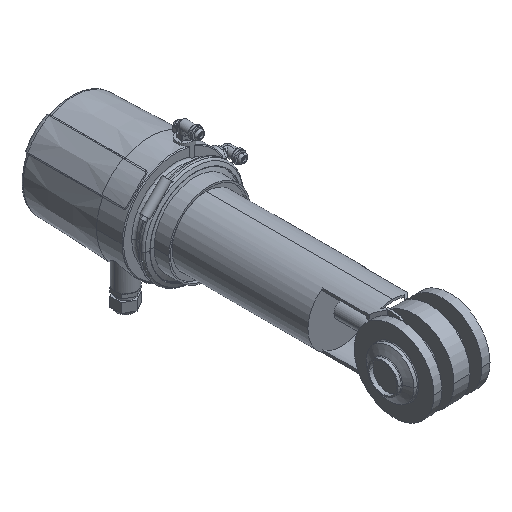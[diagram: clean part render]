
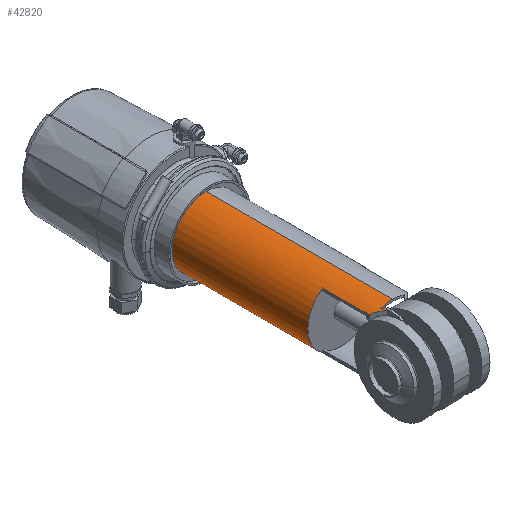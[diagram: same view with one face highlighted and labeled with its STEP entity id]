
A CAD part, isometric view. The second image highlights one B-rep face of the part: STEP entity #42820.
In plain terms, the highlighted cylindrical face has radius 42.5 mm (diameter 85 mm), a partial arc.
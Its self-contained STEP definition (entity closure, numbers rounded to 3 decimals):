
#22110=CARTESIAN_POINT('',(-207.543,30.638,
40.62));
#22120=VERTEX_POINT('',#22110);
#22150=CARTESIAN_POINT('',(-195.043,18.138,
0.));
#22160=DIRECTION('',(0.707,0.707,0.));
#22170=DIRECTION('',(-0.707,0.707,0.));
#22180=AXIS2_PLACEMENT_3D('',#22150,#22160,#22170);
#22190=ELLIPSE('',#22180,60.104,42.5);
#22200=CARTESIAN_POINT('',(-210.101,33.196,
39.743));
#22210=VERTEX_POINT('',#22200);
#22220=EDGE_CURVE('',#22210,#22120,#22190,.T.);
#23440=CARTESIAN_POINT('',(-207.543,293.457,
40.62));
#23450=DIRECTION('',(0.,-1.,0.));
#23460=VECTOR('',#23450,1.);
#23470=LINE('',#23440,#23460);
#23480=CARTESIAN_POINT('',(-207.543,27.102,
40.62));
#23490=VERTEX_POINT('',#23480);
#23520=EDGE_CURVE('',#22120,#23490,#23470,.T.);
#24110=CARTESIAN_POINT('',(-219.043,293.457,
-35.075));
#24120=DIRECTION('',(0.,-1.,0.));
#24130=VECTOR('',#24120,1.);
#24140=LINE('',#24110,#24130);
#24150=CARTESIAN_POINT('',(-219.043,96.596,
-35.075));
#24160=VERTEX_POINT('',#24150);
#24170=CARTESIAN_POINT('',(-219.043,38.602,
-35.075));
#24180=VERTEX_POINT('',#24170);
#24190=EDGE_CURVE('',#24160,#24180,#24140,.T.);
#24820=CARTESIAN_POINT('',(-205.691,25.25,
-41.145));
#24830=VERTEX_POINT('',#24820);
#24910=CARTESIAN_POINT('',(-205.043,24.602,
-41.307));
#24920=VERTEX_POINT('',#24910);
#24950=CARTESIAN_POINT('',(-195.043,14.602,
0.));
#24960=DIRECTION('',(-0.707,-0.707,0.));
#24970=DIRECTION('',(-0.707,0.707,0.));
#24980=AXIS2_PLACEMENT_3D('',#24950,#24960,#24970);
#24990=ELLIPSE('',#24980,60.104,42.5);
#25000=EDGE_CURVE('',#24830,#24920,#24990,.T.);
#25100=CARTESIAN_POINT('',(-195.043,-335.872,
0.));
#25110=DIRECTION('',(0.,-0.113,-0.994));
#25120=DIRECTION('',(0.,0.994,-0.113));
#25130=AXIS2_PLACEMENT_3D('',#25100,#25110,#25120);
#25140=ELLIPSE('',#25130,375.431,42.5);
#25150=CARTESIAN_POINT('',(-207.543,20.647,
-40.62));
#25160=VERTEX_POINT('',#25150);
#25170=EDGE_CURVE('',#25160,#24830,#25140,.T.);
#25870=CARTESIAN_POINT('',(-219.043,38.602,
35.075));
#25880=VERTEX_POINT('',#25870);
#26250=CARTESIAN_POINT('',(-219.043,96.596,
35.075));
#26260=VERTEX_POINT('',#26250);
#26290=CARTESIAN_POINT('',(-219.043,293.457,
35.075));
#26300=DIRECTION('',(0.,-1.,0.));
#26310=VECTOR('',#26300,1.);
#26320=LINE('',#26290,#26310);
#26330=EDGE_CURVE('',#26260,#25880,#26320,.T.);
#27280=CARTESIAN_POINT('',(-195.043,96.596,
0.));
#27290=DIRECTION('',(0.,-1.,0.));
#27300=DIRECTION('',(0.,0.,1.));
#27310=AXIS2_PLACEMENT_3D('',#27280,#27290,#27300);
#27320=CIRCLE('',#27310,42.5);
#27550=CARTESIAN_POINT('',(-195.043,33.196,
0.));
#27560=DIRECTION('',(0.,-1.,0.));
#27570=DIRECTION('',(0.,0.,1.));
#27580=AXIS2_PLACEMENT_3D('',#27550,#27560,#27570);
#27590=CIRCLE('',#27580,42.5);
#27600=CARTESIAN_POINT('',(-195.043,33.196,42.5));
#27610=VERTEX_POINT('',#27600);
#27640=CARTESIAN_POINT('',(-195.043,96.596,42.5));
#27650=DIRECTION('',(0.,-1.,0.));
#27660=VECTOR('',#27650,1.);
#27670=LINE('',#27640,#27660);
#27680=CARTESIAN_POINT('',(-195.043,266.596,42.5));
#27690=VERTEX_POINT('',#27680);
#27700=EDGE_CURVE('',#27690,#27610,#27670,.T.);
#27720=CARTESIAN_POINT('',(-195.043,266.596,
0.));
#27730=DIRECTION('',(0.,-1.,0.));
#27740=DIRECTION('',(0.,0.,-1.));
#27750=AXIS2_PLACEMENT_3D('',#27720,#27730,#27740);
#27760=CIRCLE('',#27750,42.5);
#27770=CARTESIAN_POINT('',(-195.043,266.596,-42.5));
#27780=VERTEX_POINT('',#27770);
#27810=CARTESIAN_POINT('',(-195.043,96.596,-42.5));
#27820=DIRECTION('',(0.,-1.,0.));
#27830=VECTOR('',#27820,1.);
#27840=LINE('',#27810,#27830);
#27850=CARTESIAN_POINT('',(-195.043,33.196,-42.5));
#27860=VERTEX_POINT('',#27850);
#27870=EDGE_CURVE('',#27780,#27860,#27840,.T.);
#27890=CARTESIAN_POINT('',(-195.043,33.196,
0.));
#27900=DIRECTION('',(0.,-1.,0.));
#27910=DIRECTION('',(0.,0.,-1.));
#27920=AXIS2_PLACEMENT_3D('',#27890,#27900,#27910);
#27930=CIRCLE('',#27920,42.5);
#28040=EDGE_CURVE('',#27690,#27780,#27760,.T.);
#28160=CARTESIAN_POINT('',(-195.043,14.602,
0.));
#28170=DIRECTION('',(-0.707,-0.707,0.));
#28180=DIRECTION('',(0.707,-0.707,0.));
#28190=AXIS2_PLACEMENT_3D('',#28160,#28170,#28180);
#28200=ELLIPSE('',#28190,60.104,42.5);
#28210=EDGE_CURVE('',#23490,#25880,#28200,.T.);
#28540=EDGE_CURVE('',#26260,#24160,#27320,.T.);
#30840=CARTESIAN_POINT('',(-207.543,293.457,
-40.62));
#30850=DIRECTION('',(0.,-1.,0.));
#30860=VECTOR('',#30850,1.);
#30870=LINE('',#30840,#30860);
#30880=CARTESIAN_POINT('',(-207.543,27.102,
-40.62));
#30890=VERTEX_POINT('',#30880);
#30900=EDGE_CURVE('',#30890,#25160,#30870,.T.);
#32480=CARTESIAN_POINT('',(-195.043,14.602,
0.));
#32490=DIRECTION('',(0.707,0.707,0.));
#32500=DIRECTION('',(0.707,-0.707,0.));
#32510=AXIS2_PLACEMENT_3D('',#32480,#32490,#32500);
#32520=ELLIPSE('',#32510,60.104,42.5);
#32530=EDGE_CURVE('',#30890,#24180,#32520,.T.);
#32690=CARTESIAN_POINT('',(-205.043,28.138,
-41.307));
#32700=VERTEX_POINT('',#32690);
#32730=CARTESIAN_POINT('',(-205.043,293.457,
-41.307));
#32740=DIRECTION('',(0.,-1.,0.));
#32750=VECTOR('',#32740,1.);
#32760=LINE('',#32730,#32750);
#32770=EDGE_CURVE('',#32700,#24920,#32760,.T.);
#32900=CARTESIAN_POINT('',(-210.101,33.196,
-39.743));
#32910=VERTEX_POINT('',#32900);
#32920=EDGE_CURVE('',#32910,#27860,#27930,.T.);
#33130=CARTESIAN_POINT('',(-195.043,18.138,
0.));
#33140=DIRECTION('',(0.707,0.707,0.));
#33150=DIRECTION('',(0.707,-0.707,0.));
#33160=AXIS2_PLACEMENT_3D('',#33130,#33140,#33150);
#33170=ELLIPSE('',#33160,60.104,42.5);
#33180=EDGE_CURVE('',#32700,#32910,#33170,.T.);
#33550=EDGE_CURVE('',#27610,#22210,#27590,.T.);
#42580=CARTESIAN_POINT('',(-195.043,96.596,
0.));
#42590=DIRECTION('',(0.,-1.,0.));
#42600=DIRECTION('',(0.,0.,-1.));
#42610=AXIS2_PLACEMENT_3D('',#42580,#42590,#42600);
#42620=CYLINDRICAL_SURFACE('',#42610,42.5);
#42630=ORIENTED_EDGE('',*,*,#28040,.T.);
#42640=ORIENTED_EDGE('',*,*,#27700,.F.);
#42650=ORIENTED_EDGE('',*,*,#33550,.F.);
#42660=ORIENTED_EDGE('',*,*,#22220,.F.);
#42670=ORIENTED_EDGE('',*,*,#23520,.F.);
#42680=ORIENTED_EDGE('',*,*,#28210,.F.);
#42690=ORIENTED_EDGE('',*,*,#26330,.T.);
#42700=ORIENTED_EDGE('',*,*,#28540,.F.);
#42710=ORIENTED_EDGE('',*,*,#24190,.F.);
#42720=ORIENTED_EDGE('',*,*,#32530,.T.);
#42730=ORIENTED_EDGE('',*,*,#30900,.F.);
#42740=ORIENTED_EDGE('',*,*,#25170,.F.);
#42750=ORIENTED_EDGE('',*,*,#25000,.F.);
#42760=ORIENTED_EDGE('',*,*,#32770,.T.);
#42770=ORIENTED_EDGE('',*,*,#33180,.F.);
#42780=ORIENTED_EDGE('',*,*,#32920,.F.);
#42790=ORIENTED_EDGE('',*,*,#27870,.T.);
#42800=EDGE_LOOP('',(#42790,#42780,#42770,#42760,#42750,#42740,#42730,
#42720,#42710,#42700,#42690,#42680,#42670,#42660,#42650,#42640,#42630));
#42810=FACE_OUTER_BOUND('',#42800,.T.);
#42820=ADVANCED_FACE('',(#42810),#42620,.T.);
